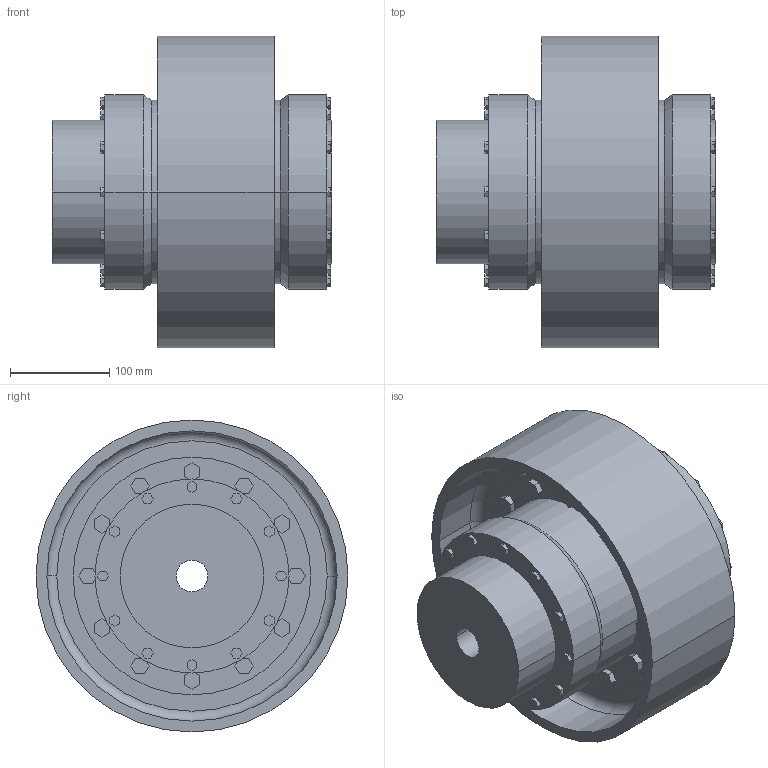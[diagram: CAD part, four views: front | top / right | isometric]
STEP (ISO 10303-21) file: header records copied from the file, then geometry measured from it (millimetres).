
FILE_DESCRIPTION((''),'2;1');
FILE_NAME('A19734500-0_ASM','2019-05-23T',('AB_Roschiwal'),('RENK AG'),'PRO/ENGINEER BY PARAMETRIC TECHNOLOGY CORPORATION, 2015440','PRO/ENGINEER BY PARAMETRIC TECHNOLOGY CORPORATION, 2015440','');
FILE_SCHEMA(('CONFIG_CONTROL_DESIGN'));
Length unit declared in the file: millimetre
Products named in the file (4): SBKD90_GEHAEUSE; SBKD90_NABE; SBKD90_BREMSSCHEIBE; A19734500-0_ASM
Assembly tree (4 placements, depth 2):
  A19734500-0_ASM
    SBKD90_GEHAEUSE
    SBKD90_NABE  x2
    SBKD90_BREMSSCHEIBE
Bounding box: 282 x 315 x 315 mm (x, y, z)
Volume: 7335303.1 mm3; surface area: 911053.6 mm2
Topology: 4 solids, 4 shells, 474 faces, 1164 edges, 772 vertices
Faces by surface type: plane 370, cylinder 96, cone 4, torus 4
Entity records: 13708 total; most frequent: CARTESIAN_POINT 2366, ORIENTED_EDGE 2280, DIRECTION 2264, EDGE_CURVE 1140, VECTOR 956, LINE 956, VERTEX_POINT 756, AXIS2_PLACEMENT_3D 654
